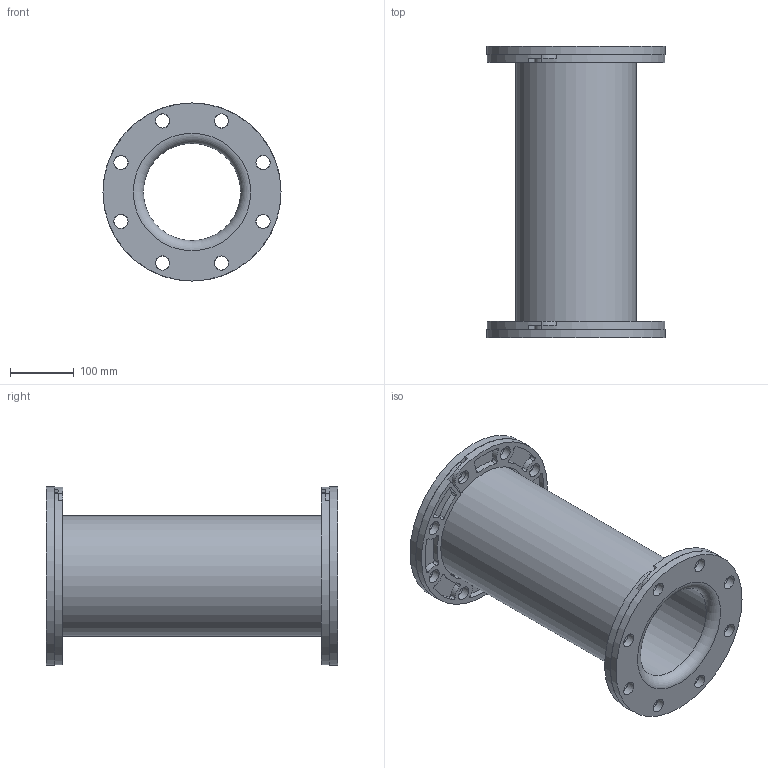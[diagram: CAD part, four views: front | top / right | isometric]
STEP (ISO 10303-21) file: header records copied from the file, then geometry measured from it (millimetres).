
FILE_DESCRIPTION(/* description */ (''),/* implementation_level */ '2;1');
FILE_NAME(/* name */ 'C:\001_Work\Designs\Mercer2014\MQInventor2014\RajR\150 Style\STP\STYLE 150 ASA150LB\150-6IDx18FF ASA150LB.stp',/* time_stamp */ '2016-05-20T18:46:43-04:00',/* author */ ('rramoutar'),/* organization */ ('Mason Industries Inc.'),/* preprocessor_version */ 'ST-DEVELOPER v15.6',/* originating_system */ 'Autodesk Inventor 2015',/* authorisation */ '');
FILE_SCHEMA (('CONFIG_CONTROL_DESIGN'));
Length unit declared in the file: inch
Products named in the file (1): 150-6IDx18FF
Bounding box: 279.4 x 457.2 x 279.4 mm (x, y, z)
Volume: 5645171 mm3; surface area: 843757.7 mm2
Topology: 3 solids, 3 shells, 250 faces, 676 edges, 450 vertices
Faces by surface type: cylinder 182, plane 64, torus 4
Full cylindrical faces by diameter (mm): 22.225 x36, 152.4 x1, 188.57 x1, 279.4 x4
Entity records: 8234 total; most frequent: DIRECTION 1524, CARTESIAN_POINT 1321, ORIENTED_EDGE 1252, AXIS2_PLACEMENT_3D 647, EDGE_CURVE 626, VERTEX_POINT 444, CIRCLE 396, EDGE_LOOP 382
